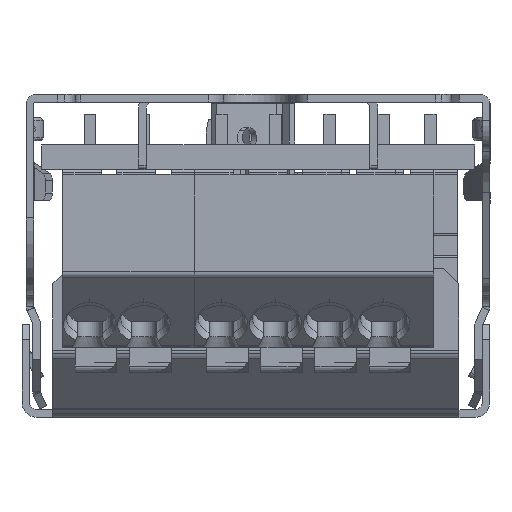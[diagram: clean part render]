
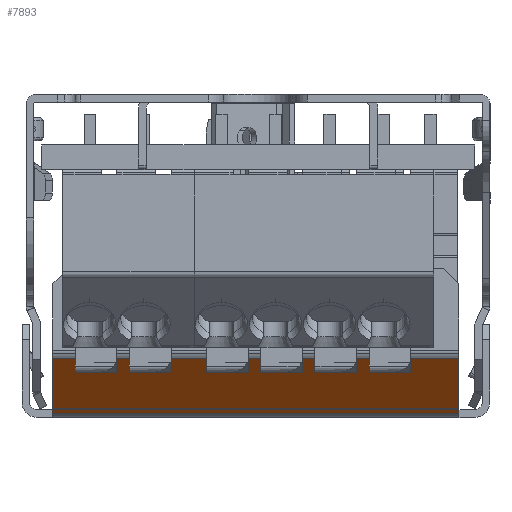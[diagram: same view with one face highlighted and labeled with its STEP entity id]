
A CAD part, front view. The second image highlights one B-rep face of the part: STEP entity #7893.
In plain terms, the highlighted planar face has unit normal (0, -0.707, -0.707).
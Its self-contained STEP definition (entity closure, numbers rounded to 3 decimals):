
#4349 = DIRECTION ( 'NONE',  ( 1., 0., 0. ) ) ;
#6182 = ORIENTED_EDGE ( 'NONE', *, *, #25602, .T. ) ;
#6198 = VECTOR ( 'NONE', #29699, 1000. ) ;
#7318 = CARTESIAN_POINT ( 'NONE',  ( 28.008, -144.576, -200.656 ) ) ;
#7893 = ADVANCED_FACE ( 'NONE', ( #10203 ), #13966, .F. ) ;
#9863 = CARTESIAN_POINT ( 'NONE',  ( -223.716, -144.576, -200.656 ) ) ;
#10203 = FACE_OUTER_BOUND ( 'NONE', #48677, .T. ) ;
#10808 = LINE ( 'NONE', #11485, #29909 ) ;
#11485 = CARTESIAN_POINT ( 'NONE',  ( 1.738, -144.576, -200.656 ) ) ;
#13966 = PLANE ( 'NONE',  #27647 ) ;
#14995 = ORIENTED_EDGE ( 'NONE', *, *, #64220, .F. ) ;
#17611 = VERTEX_POINT ( 'NONE', #35654 ) ;
#19765 = VECTOR ( 'NONE', #49392, 1000. ) ;
#25602 = EDGE_CURVE ( 'NONE', #17611, #35939, #10808, .T. ) ;
#25936 = CARTESIAN_POINT ( 'NONE',  ( 1.738, -325.848, -19.383 ) ) ;
#27647 = AXIS2_PLACEMENT_3D ( 'NONE', #9863, #56406, #4349 ) ;
#29699 = DIRECTION ( 'NONE',  ( 1., 0., 0. ) ) ;
#29909 = VECTOR ( 'NONE', #32708, 1000. ) ;
#32083 = ORIENTED_EDGE ( 'NONE', *, *, #57534, .T. ) ;
#32708 = DIRECTION ( 'NONE',  ( 0., 0.707, -0.707 ) ) ;
#33045 = DIRECTION ( 'NONE',  ( 1., 0., 0. ) ) ;
#35654 = CARTESIAN_POINT ( 'NONE',  ( 1.738, -329.402, -15.83 ) ) ;
#35939 = VERTEX_POINT ( 'NONE', #25936 ) ;
#38496 = ORIENTED_EDGE ( 'NONE', *, *, #58078, .F. ) ;
#40617 = CARTESIAN_POINT ( 'NONE',  ( -223.716, -325.848, -19.383 ) ) ;
#43249 = LINE ( 'NONE', #7318, #19765 ) ;
#45008 = CARTESIAN_POINT ( 'NONE',  ( 28.008, -329.402, -15.83 ) ) ;
#46955 = VERTEX_POINT ( 'NONE', #55867 ) ;
#47408 = CARTESIAN_POINT ( 'NONE',  ( -223.716, -329.402, -15.83 ) ) ;
#48677 = EDGE_LOOP ( 'NONE', ( #6182, #32083, #14995, #38496 ) ) ;
#49392 = DIRECTION ( 'NONE',  ( 0., 0.707, -0.707 ) ) ;
#55024 = LINE ( 'NONE', #40617, #6198 ) ;
#55867 = CARTESIAN_POINT ( 'NONE',  ( 28.008, -325.848, -19.383 ) ) ;
#56406 = DIRECTION ( 'NONE',  ( 0., 0.707, 0.707 ) ) ;
#57534 = EDGE_CURVE ( 'NONE', #35939, #46955, #55024, .T. ) ;
#58078 = EDGE_CURVE ( 'NONE', #17611, #64073, #58375, .T. ) ;
#58375 = LINE ( 'NONE', #47408, #64193 ) ;
#64073 = VERTEX_POINT ( 'NONE', #45008 ) ;
#64193 = VECTOR ( 'NONE', #33045, 1000. ) ;
#64220 = EDGE_CURVE ( 'NONE', #64073, #46955, #43249, .T. ) ;
